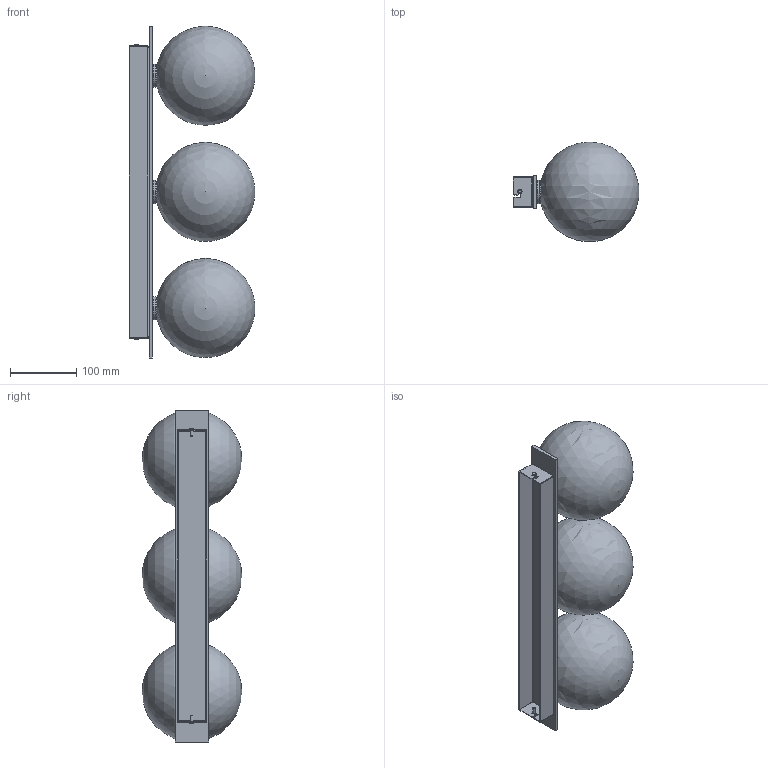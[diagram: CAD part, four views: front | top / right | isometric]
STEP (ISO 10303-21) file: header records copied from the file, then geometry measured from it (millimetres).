
FILE_DESCRIPTION(/* description */ (''),/* implementation_level */ '2;1');
FILE_NAME(/* name */ 'T:\B073 Oslo Triple Wall Scone\Pliki bryłowe handlowe\B073 Oslo Triple 3D files\073 Oslo Triple.stp',/* time_stamp */ '2022-01-19T13:07:00+01:00',/* author */ ('Mariusz Awariusz'),/* organization */ (''),/* preprocessor_version */ 'ST-DEVELOPER v18.1',/* originating_system */ 'Autodesk Inventor 2022',/* authorisation */ '');
FILE_SCHEMA (('AUTOMOTIVE_DESIGN { 1 0 10303 214 3 1 1 }'));
Length unit declared in the file: millimetre
Products named in the file (1): Oslo Triple Wall Sconce CE V1.1_na potrzeby plików 3D_2_jako część
Bounding box: 189.36 x 150 x 500.11 mm (x, y, z)
Volume: 598588.8 mm3; surface area: 530833.7 mm2
Topology: 1 solids, 7 shells, 155 faces, 358 edges, 225 vertices
Faces by surface type: plane 67, cylinder 44, cone 14, sphere 12, torus 10, bspline 8
Full cylindrical faces by diameter (mm): 3.4 x9, 4 x2, 6 x2, 11.917 x3, 25 x3, 33 x3, 35 x3
Entity records: 4992 total; most frequent: CARTESIAN_POINT 1479, DIRECTION 733, ORIENTED_EDGE 692, EDGE_CURVE 346, AXIS2_PLACEMENT_3D 279, VERTEX_POINT 225, LINE 175, VECTOR 175
